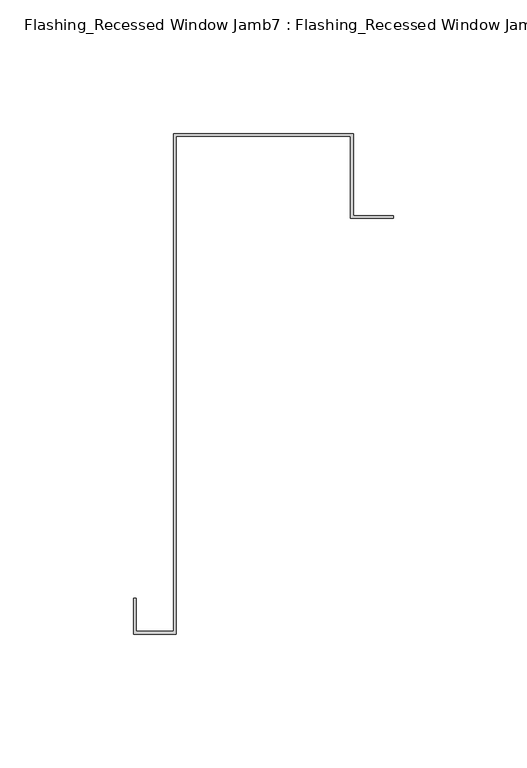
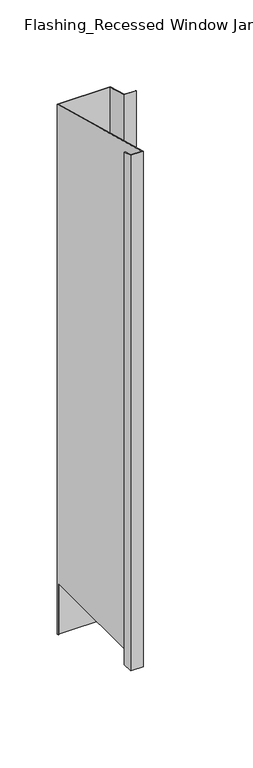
"""IFC4 building model written with IfcOpenShell, lengths in millimetres: proxy geometry, Flashing_Recessed Window Jamb7 : Flashing_Recessed Window Jamb."""

from ifc_helpers import new_model, si_unit, origin, place, context, project, spatial, faceted_brep, source, transform, mapped, element, save


def flashing_recessed_window_jamb7_flashing_recessed_window_jamb_bc847796(model_context):
    return source(origin(), model_context, "Body", "Brep", [
        faceted_brep([(16348.2575627, -26570.5553264, -1055.1751138), (16348.2575627, -26539.8073445, -1055.1751138), (16282.8825627, -26539.8073445, -1055.1751138), (16282.8825627, -26540.7391961, -1055.1751138), (16281.8825627, -26540.7391961, -1055.1751138), (16281.8825627, -26538.8073445, -1055.1751138), (16349.2575627, -26538.8073445, -1055.1751138), (16349.2575627, -26569.5553264, -1055.1751138), (16364.2575627, -26569.5553264, -1055.1751138), (16364.2575627, -26570.5553264, -1055.1751138), (16349.2575627, -26538.8073445, -343.2151173), (16349.2575627, -26569.5553264, -334.9762204), (16281.8825627, -26538.8073445, -343.2151173), (16281.8825627, -26540.7391961, -985.662203), (16281.8825627, -26725.1803264, -985.662203), (16281.8825627, -26725.1803264, -293.2766273), (16267.8825627, -26725.1803264, -293.2766273), (16267.8825627, -26725.1803264, -985.662203), (16267.8825627, -26712.854598, -296.5792963), (16267.8825627, -26712.854598, -985.662203), (16266.8825627, -26712.854598, -296.5792963), (16266.8825627, -26712.854598, -985.662203), (16266.8825627, -26726.1803264, -293.0086781), (16266.8825627, -26726.1803264, -985.662203), (16282.8825627, -26726.1803264, -293.0086781), (16282.8825627, -26726.1803264, -985.662203), (16282.8825627, -26539.8073445, -342.9471681), (16282.8825627, -26540.7391961, -985.662203), (16348.2575627, -26539.8073445, -342.9471681), (16348.2575627, -26570.5553264, -334.7082712), (16364.2575627, -26570.5553264, -334.7082712), (16364.2575627, -26569.5553264, -334.9762204)], [[[0, 1, 2, 3, 4, 5, 6, 7, 8, 9]], [[7, 6, 10, 11]], [[6, 5, 12, 10]], [[12, 5, 4, 13, 14, 15]], [[16, 15, 14, 17]], [[18, 16, 17, 19]], [[20, 18, 19, 21]], [[22, 20, 21, 23]], [[24, 22, 23, 25]], [[2, 26, 24, 25, 27, 3]], [[2, 1, 28, 26]], [[1, 0, 29, 28]], [[0, 9, 30, 29]], [[9, 8, 31, 30]], [[8, 7, 11, 31]], [[11, 10, 12, 15, 16, 18, 20, 22, 24, 26, 28, 29, 30, 31]], [[13, 27, 25, 23, 21, 19, 17, 14]], [[27, 13, 4, 3]]]),
    ])


if __name__ == "__main__":
    model = new_model("IFC4")
    model_context = context("Model", 3, world=origin())
    ifc_project = project(units=[si_unit("LENGTHUNIT", "METRE", prefix="MILLI")], contexts=[model_context])
    site = spatial("IfcSite", under=ifc_project)
    building = spatial("IfcBuilding", under=site)
    placement = place(None, origin())
    flashing_recessed_window_jamb7_flashing_recessed_window_jamb_shape = flashing_recessed_window_jamb7_flashing_recessed_window_jamb_bc847796(model_context)
    element("IfcBuildingElementProxy", 1, Name="Flashing_Recessed Window Jamb7 : Flashing_Recessed Window Jamb", ObjectType="Flashing_Recessed Window Jamb7 : Flashing_Recessed Window Jamb", at=placement, inside=building, context=model_context, shape_type="MappedRepresentation", body=[
        mapped(flashing_recessed_window_jamb7_flashing_recessed_window_jamb_shape, transform((0.0, 0.0, 0.0), x_axis=(1.0, 0.0, 0.0), y_axis=(0.0, 1.0, 0.0), z_axis=(0.0, 0.0, 1.0))),
    ])
    save(model, "model.ifc")
